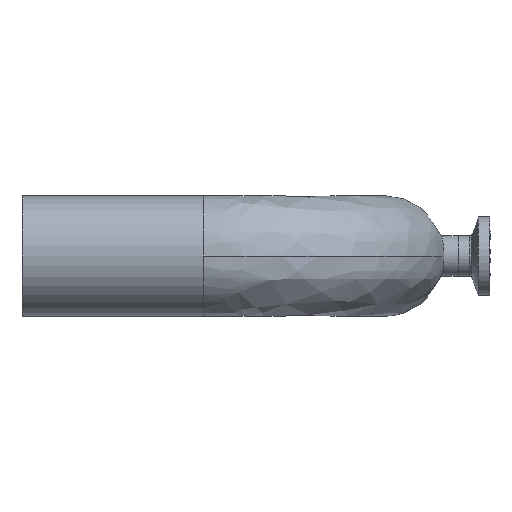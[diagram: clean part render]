
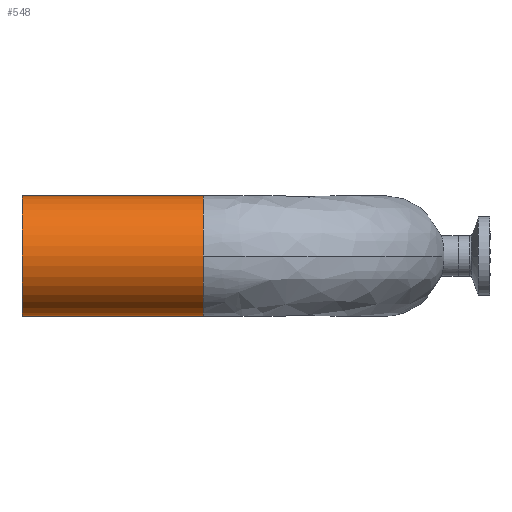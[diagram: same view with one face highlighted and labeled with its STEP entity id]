
A CAD part, left-side view. The second image highlights one B-rep face of the part: STEP entity #548.
In plain terms, the highlighted cylindrical face has radius 19.05 mm (diameter 38.1 mm), a partial arc.
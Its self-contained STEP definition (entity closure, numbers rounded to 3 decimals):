
#74 = DIRECTION ( 'NONE',  ( 0., 1., 0. ) ) ;
#86 = EDGE_CURVE ( 'NONE', #906, #789, #1418, .T. ) ;
#129 = DIRECTION ( 'NONE',  ( 0., 0., 1. ) ) ;
#134 = CYLINDRICAL_SURFACE ( 'NONE', #1142, 19.05 ) ;
#264 = VECTOR ( 'NONE', #320, 1000. ) ;
#267 = DIRECTION ( 'NONE',  ( 0., -1., 0. ) ) ;
#320 = DIRECTION ( 'NONE',  ( 0., 1., 0. ) ) ;
#385 = CARTESIAN_POINT ( 'NONE',  ( -57.15, 57.15, 0. ) ) ;
#415 = CARTESIAN_POINT ( 'NONE',  ( -76.2, 57.15, 0. ) ) ;
#432 = EDGE_CURVE ( 'NONE', #868, #502, #1485, .T. ) ;
#452 = CARTESIAN_POINT ( 'NONE',  ( -57.15, 114.3, 19.05 ) ) ;
#468 = AXIS2_PLACEMENT_3D ( 'NONE', #1229, #1521, #538 ) ;
#490 = CARTESIAN_POINT ( 'NONE',  ( -57.15, 57.15, 19.05 ) ) ;
#502 = VERTEX_POINT ( 'NONE', #620 ) ;
#534 = EDGE_CURVE ( 'NONE', #906, #988, #1233, .T. ) ;
#538 = DIRECTION ( 'NONE',  ( 0., 0., 1. ) ) ;
#548 = ADVANCED_FACE ( 'NONE', ( #694 ), #134, .T. ) ;
#620 = CARTESIAN_POINT ( 'NONE',  ( -57.15, 114.3, -19.05 ) ) ;
#630 = DIRECTION ( 'NONE',  ( -1., 0., 0. ) ) ;
#641 = DIRECTION ( 'NONE',  ( 0., 1., 0. ) ) ;
#656 = CIRCLE ( 'NONE', #1289, 19.05 ) ;
#659 = ORIENTED_EDGE ( 'NONE', *, *, #432, .F. ) ;
#673 = ORIENTED_EDGE ( 'NONE', *, *, #1245, .F. ) ;
#694 = FACE_OUTER_BOUND ( 'NONE', #1445, .T. ) ;
#699 = CARTESIAN_POINT ( 'NONE',  ( -57.15, 57.15, -19.05 ) ) ;
#701 = ORIENTED_EDGE ( 'NONE', *, *, #534, .F. ) ;
#719 = ORIENTED_EDGE ( 'NONE', *, *, #86, .T. ) ;
#789 = VERTEX_POINT ( 'NONE', #452 ) ;
#831 = CARTESIAN_POINT ( 'NONE',  ( -57.15, 57.15, 19.05 ) ) ;
#839 = CARTESIAN_POINT ( 'NONE',  ( -57.15, 57.15, -19.05 ) ) ;
#868 = VERTEX_POINT ( 'NONE', #699 ) ;
#879 = AXIS2_PLACEMENT_3D ( 'NONE', #1405, #267, #1037 ) ;
#906 = VERTEX_POINT ( 'NONE', #490 ) ;
#988 = VERTEX_POINT ( 'NONE', #415 ) ;
#1037 = DIRECTION ( 'NONE',  ( -1., 0., 0. ) ) ;
#1066 = ORIENTED_EDGE ( 'NONE', *, *, #1438, .T. ) ;
#1082 = VECTOR ( 'NONE', #74, 1000. ) ;
#1142 = AXIS2_PLACEMENT_3D ( 'NONE', #385, #641, #129 ) ;
#1229 = CARTESIAN_POINT ( 'NONE',  ( -57.15, 114.3, 0. ) ) ;
#1233 = CIRCLE ( 'NONE', #879, 19.05 ) ;
#1245 = EDGE_CURVE ( 'NONE', #988, #868, #656, .T. ) ;
#1247 = CIRCLE ( 'NONE', #468, 19.05 ) ;
#1289 = AXIS2_PLACEMENT_3D ( 'NONE', #1629, #1516, #630 ) ;
#1405 = CARTESIAN_POINT ( 'NONE',  ( -57.15, 57.15, 0. ) ) ;
#1418 = LINE ( 'NONE', #831, #264 ) ;
#1438 = EDGE_CURVE ( 'NONE', #789, #502, #1247, .T. ) ;
#1445 = EDGE_LOOP ( 'NONE', ( #659, #673, #701, #719, #1066 ) ) ;
#1485 = LINE ( 'NONE', #839, #1082 ) ;
#1516 = DIRECTION ( 'NONE',  ( 0., -1., 0. ) ) ;
#1521 = DIRECTION ( 'NONE',  ( 0., -1., 0. ) ) ;
#1629 = CARTESIAN_POINT ( 'NONE',  ( -57.15, 57.15, 0. ) ) ;
